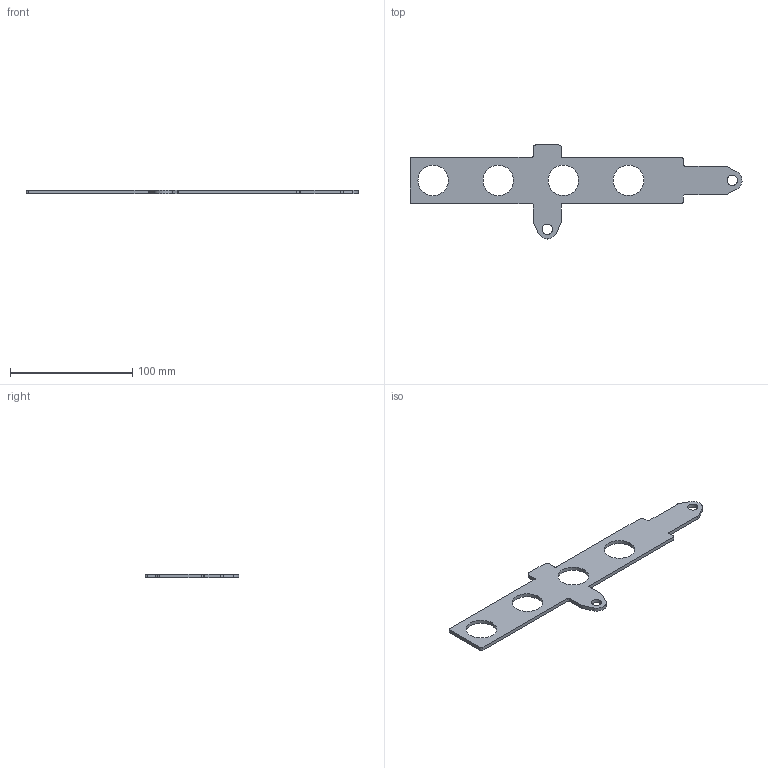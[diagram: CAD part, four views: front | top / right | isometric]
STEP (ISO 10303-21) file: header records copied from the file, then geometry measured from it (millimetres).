
FILE_DESCRIPTION((''),'2;1');
FILE_NAME('288101','2022-12-13T14:20:31',('vmorco'),(''),'CREO PARAMETRIC BY PTC INC, 2020454','CREO PARAMETRIC BY PTC INC, 2020454','');
FILE_SCHEMA(('AUTOMOTIVE_DESIGN { 1 0 10303 214 1 1 1 1 }'));
Length unit declared in the file: millimetre
Products named in the file (1): 288101
Bounding box: 271.97 x 77 x 3 mm (x, y, z)
Volume: 24779 mm3; surface area: 19618.7 mm2
Topology: 1 solids, 1 shells, 50 faces, 144 edges, 96 vertices
Faces by surface type: cylinder 30, plane 20
Entity records: 1763 total; most frequent: DIRECTION 304, CARTESIAN_POINT 292, ORIENTED_EDGE 288, EDGE_CURVE 144, AXIS2_PLACEMENT_3D 110, VERTEX_POINT 96, VECTOR 84, LINE 84
